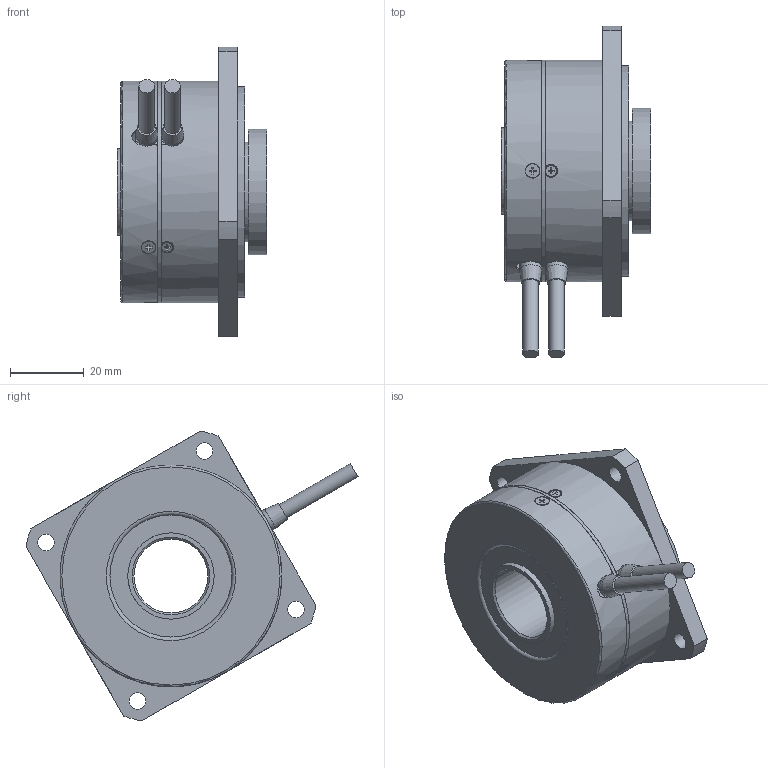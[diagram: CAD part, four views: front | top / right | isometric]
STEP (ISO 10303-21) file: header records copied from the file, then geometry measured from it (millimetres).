
FILE_DESCRIPTION(('STEP AP242'),'1');
FILE_NAME('MDH-60-06.stp','2020-04-17T06:10:17',(' '),(' '),'Spatial InterOp 3D',' ',' ');
FILE_SCHEMA(('AP242_MANAGED_MODEL_BASED_3D_ENGINEERING_MIM_LF {1 0 10303 442 1 1 4}'));
Length unit declared in the file: millimetre
Products named in the file (14): 041976; MDH-60-06; 041977; 012833; 018110; 018217; 033279; 042520; 040050; 041708; 040550; 042220
Assembly tree (24 placements, depth 3):
  MDH-60-06
    041976
      041976
      041976
    041977
      041976
      041976
    012833
    018110  x3
    018217  x3
    033279  x5
    042520
    040050
    041708  x2
    040550
    042220
Bounding box: 40.5 x 89.8 x 78.42 mm (x, y, z)
Volume: 42602.2 mm3; surface area: 46185.4 mm2
Topology: 22 solids, 22 shells, 455 faces, 1094 edges, 713 vertices
Faces by surface type: plane 286, cylinder 114, cone 40, torus 12, sphere 3
Full cylindrical faces by diameter (mm): 1.6 x11, 1.7 x3, 2 x11, 2.5 x6, 3 x6, 3.8 x5, 4 x2, 4.2 x2, 4.4 x2, 4.5 x4, 6 x2, 20 x1, 23.35 x2, 23.4 x1, 23.6 x1, 25 x5, 27 x1, 28.4 x4, 33 x2, 34 x1, 34.3 x4, 34.5 x1, 37 x4, 39 x1, 40 x2, 40.2 x2, 55 x1, 56 x1, 57 x1, 58 x1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
Entity records: 11272 total; most frequent: CARTESIAN_POINT 2201, DIRECTION 1297, ORIENTED_EDGE 1026, AXIS2_PLACEMENT_3D 523, EDGE_CURVE 513, EDGE_LOOP 457, VERTEX_POINT 395, FACE_OUTER_BOUND 347
